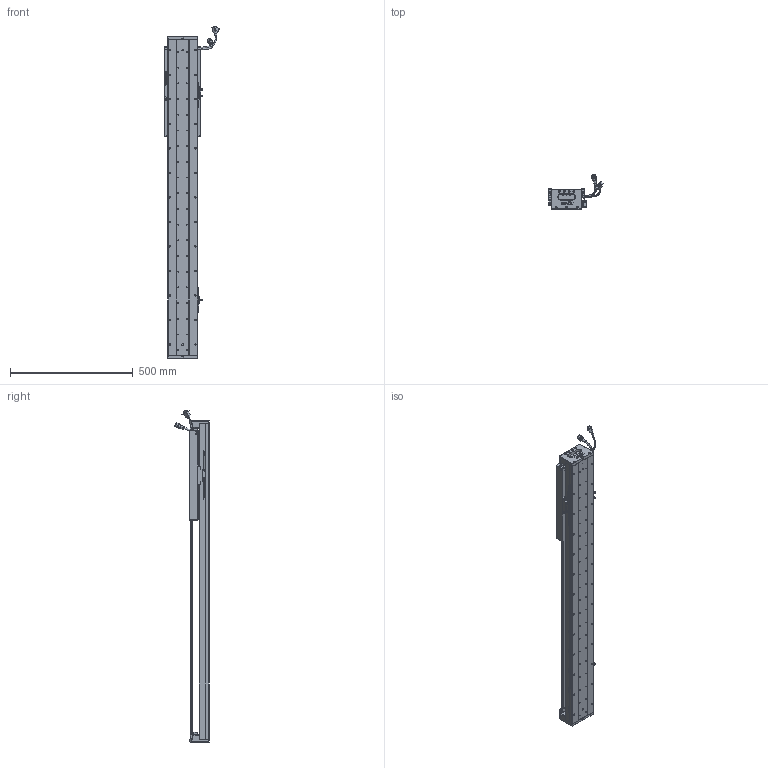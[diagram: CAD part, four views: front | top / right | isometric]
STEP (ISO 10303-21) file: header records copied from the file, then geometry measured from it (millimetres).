
FILE_DESCRIPTION (( 'STEP AP203' ), '1' );
FILE_NAME ('Z5-RY120D-1-L500-B-K.SLDASM_0850.step', '2021-05-17T06:21:55', ( '盈信电脑' ), ( '东莞市道滘镇水果街19号' ), 'SwSTEP 2.0', 'SolidWorks 2016', '' );
FILE_SCHEMA (( 'CONFIG_CONTROL_DESIGN' ));
Length unit declared in the file: millimetre
Products named in the file (37): Z-120詩湍傷裔啣; SCREW-M1.6; RY100FB-遵嫖萇覜茼え; SEAL; 120-Z-臏賑輸盄裔(21遴); SCREW-M1.7-1; PSLH080_PSLF2; SEAL-Part-1; HARNESS; SCALE-Part-2; Z5-RY120-500-倰第菁釱_0850; Z5-RY120铝滑块（21款）; 140蚥薯蝶輸; SCREW-M1.6-3; COVER; 140雄赽晤鎢ん堤盄; HOLDER0; SCREW-M1.6-1; LABEL-Part-1; Z-RY120D詩湍奻揤裔; SCALE-Part-1; SCREW-M1.6-2; Z5-RY120-L500詩湍100mm遵_0850; SCALE; 榋妏寠巭燃_暯_M2_2; HARNESS-Part-1; SCREW-M1.7; Z-RY120D詩湍狟揤裔; Z5-RY120D-1-L500-B-K.SLDASM_0850; PBU_SHEET; 080黍杅芛假蚾釱21遴; COVER-Part-1; LABEL; 672嫖萇羲壽假蚾釱; SHIELDPLATE; HARNESS-Part-2; 覜茼ん672
Assembly tree (43 placements, depth 4):
  Z5-RY120D-1-L500-B-K.SLDASM_0850
    Z5-RY120-500-倰第菁釱_0850
    覜茼ん672  x3
    672嫖萇羲壽假蚾釱  x2
    Z5-RY120铝滑块（21款）
    PSLH080_PSLF2
      SCALE
        SCALE-Part-1
        SCALE-Part-2
      HARNESS
        HARNESS-Part-1
        HARNESS-Part-2
      LABEL
        LABEL-Part-1
      COVER
        COVER-Part-1
      SEAL
        SEAL-Part-1
      榋妏寠巭燃_暯_M2_2
      SHIELDPLATE
      SCREW-M1.7
      SCREW-M1.7-1
      PBU_SHEET
      SCREW-M1.6
      SCREW-M1.6-1
      SCREW-M1.6-2
      SCREW-M1.6-3
      HOLDER0
    080黍杅芛假蚾釱21遴
    120-Z-臏賑輸盄裔(21遴)
    140雄赽晤鎢ん堤盄
    140蚥薯蝶輸  x2
    RY100FB-遵嫖萇覜茼え
    Z-120詩湍傷裔啣  x2
    Z-RY120D詩湍奻揤裔  x2
    Z-RY120D詩湍狟揤裔  x2
    Z5-RY120-L500詩湍100mm遵_0850
Bounding box: 222.88 x 140.94 x 1353.99 mm (x, y, z)
Volume: 3961584.3 mm3; surface area: 1278911.6 mm2
Topology: 38 solids, 38 shells, 3025 faces, 8255 edges, 5216 vertices
Faces by surface type: cylinder 1451, plane 1154, cone 298, torus 69, bspline 53
Entity records: 93268 total; most frequent: CARTESIAN_POINT 25565, ORIENTED_EDGE 13438, DIRECTION 13073, EDGE_CURVE 6719, AXIS2_PLACEMENT_3D 4818, VERTEX_POINT 4336, LINE 3437, VECTOR 3437
